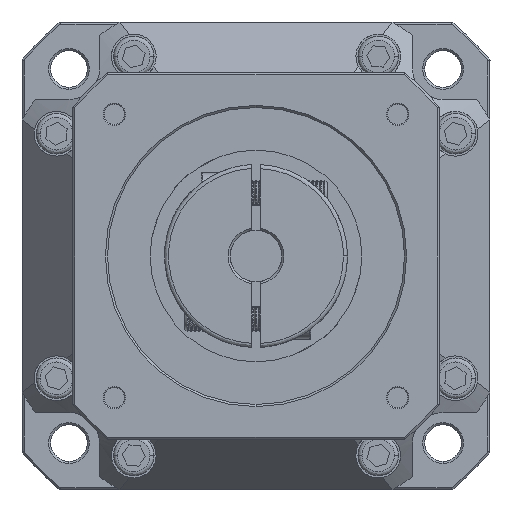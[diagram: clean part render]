
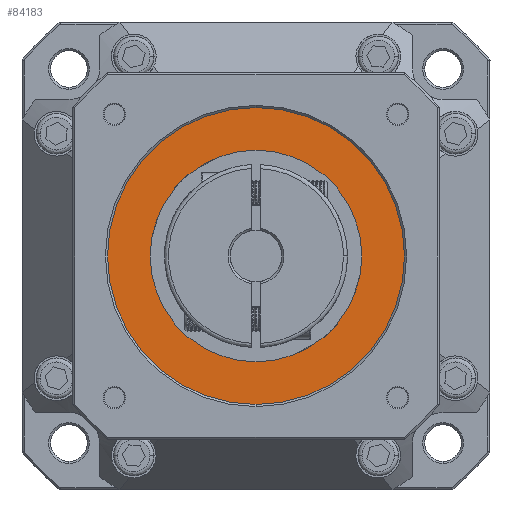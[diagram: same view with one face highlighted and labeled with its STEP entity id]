
A CAD part, front view. The second image highlights one B-rep face of the part: STEP entity #84183.
In plain terms, the highlighted planar face has unit normal (0, 1, 0).
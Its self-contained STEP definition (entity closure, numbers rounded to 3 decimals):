
#548 = VERTEX_POINT ( 'NONE', #65206 ) ;
#871 = CIRCLE ( 'NONE', #38504, 36.5 ) ;
#2412 = ORIENTED_EDGE ( 'NONE', *, *, #7443, .T. ) ;
#3860 = AXIS2_PLACEMENT_3D ( 'NONE', #22078, #69172, #28823 ) ;
#7117 = CARTESIAN_POINT ( 'NONE',  ( 0., -122.611, 0. ) ) ;
#7443 = EDGE_CURVE ( 'NONE', #27597, #11925, #65163, .T. ) ;
#11925 = VERTEX_POINT ( 'NONE', #74425 ) ;
#13009 = VERTEX_POINT ( 'NONE', #73060 ) ;
#13837 = DIRECTION ( 'NONE',  ( 0., 0., 1. ) ) ;
#17029 = AXIS2_PLACEMENT_3D ( 'NONE', #7117, #54143, #13837 ) ;
#17705 = CIRCLE ( 'NONE', #17029, 26. ) ;
#22000 = ORIENTED_EDGE ( 'NONE', *, *, #54223, .T. ) ;
#22078 = CARTESIAN_POINT ( 'NONE',  ( -36.938, -122.611, -36.938 ) ) ;
#27597 = VERTEX_POINT ( 'NONE', #86780 ) ;
#28235 = DIRECTION ( 'NONE',  ( 0., 1., 0. ) ) ;
#28539 = PLANE ( 'NONE',  #3860 ) ;
#28823 = DIRECTION ( 'NONE',  ( 1., 0., 0. ) ) ;
#33281 = FACE_BOUND ( 'NONE', #84562, .T. ) ;
#34205 = AXIS2_PLACEMENT_3D ( 'NONE', #75872, #35569, #82638 ) ;
#35569 = DIRECTION ( 'NONE',  ( 0., -1., 0. ) ) ;
#38504 = AXIS2_PLACEMENT_3D ( 'NONE', #68569, #28235, #75356 ) ;
#38730 = DIRECTION ( 'NONE',  ( 0., 1., 0. ) ) ;
#42646 = ORIENTED_EDGE ( 'NONE', *, *, #78892, .T. ) ;
#53424 = EDGE_LOOP ( 'NONE', ( #42646, #54063 ) ) ;
#54063 = ORIENTED_EDGE ( 'NONE', *, *, #62042, .T. ) ;
#54143 = DIRECTION ( 'NONE',  ( 0., -1., 0. ) ) ;
#54223 = EDGE_CURVE ( 'NONE', #11925, #27597, #17705, .T. ) ;
#62042 = EDGE_CURVE ( 'NONE', #13009, #548, #79173, .T. ) ;
#65163 = CIRCLE ( 'NONE', #34205, 26. ) ;
#65206 = CARTESIAN_POINT ( 'NONE',  ( 0., -122.611, -36.5 ) ) ;
#68569 = CARTESIAN_POINT ( 'NONE',  ( 0., -122.611, 0. ) ) ;
#69085 = FACE_OUTER_BOUND ( 'NONE', #53424, .T. ) ;
#69172 = DIRECTION ( 'NONE',  ( 0., -1., 0. ) ) ;
#73060 = CARTESIAN_POINT ( 'NONE',  ( 0., -122.611, 36.5 ) ) ;
#74425 = CARTESIAN_POINT ( 'NONE',  ( 0., -122.611, 26. ) ) ;
#75356 = DIRECTION ( 'NONE',  ( 0., 0., -1. ) ) ;
#75872 = CARTESIAN_POINT ( 'NONE',  ( 0., -122.611, 0. ) ) ;
#78892 = EDGE_CURVE ( 'NONE', #548, #13009, #871, .T. ) ;
#79085 = CARTESIAN_POINT ( 'NONE',  ( 0., -122.611, 0. ) ) ;
#79173 = CIRCLE ( 'NONE', #81763, 36.5 ) ;
#81763 = AXIS2_PLACEMENT_3D ( 'NONE', #79085, #38730, #85796 ) ;
#82638 = DIRECTION ( 'NONE',  ( 0., 0., 1. ) ) ;
#84183 = ADVANCED_FACE ( 'NONE', ( #33281, #69085 ), #28539, .F. ) ;
#84562 = EDGE_LOOP ( 'NONE', ( #22000, #2412 ) ) ;
#85796 = DIRECTION ( 'NONE',  ( 0., 0., -1. ) ) ;
#86780 = CARTESIAN_POINT ( 'NONE',  ( 0., -122.611, -26. ) ) ;
